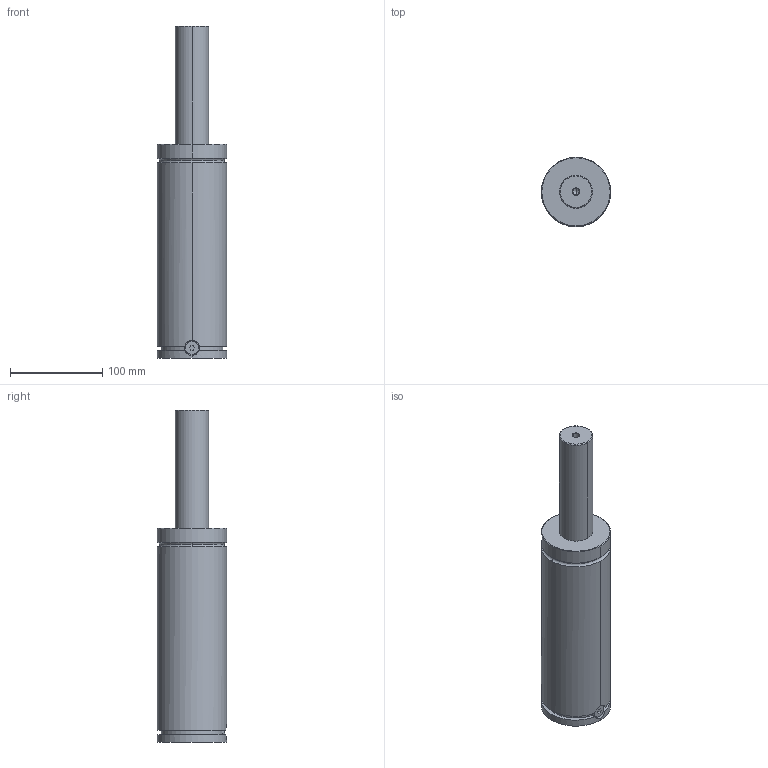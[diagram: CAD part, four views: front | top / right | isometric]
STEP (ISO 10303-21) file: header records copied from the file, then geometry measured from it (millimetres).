
FILE_DESCRIPTION( ( '' ), '1' );
FILE_NAME( 'W:/LIBRERIA TECAPRES®/DIBUJOS STRACK 2012/TPS/TPS 1500/TPS 1500x125.stp', '2012-05-15T13:11:48', ( '' ), ( '' ), ' ', ' ', ' ' );
FILE_SCHEMA( ( 'automotive_design' ) );
Length unit declared in the file: millimetre
Products named in the file (3): 1; 2; 3
Bounding box: 75 x 75 x 360 mm (x, y, z)
Volume: 1017529.4 mm3; surface area: 99081.8 mm2
Topology: 3 solids, 3 shells, 68 faces, 152 edges, 98 vertices
Faces by surface type: cylinder 32, plane 24, torus 6, cone 6
Entity records: 3901 total; most frequent: CARTESIAN_POINT 473, DIRECTION 367, STYLED_ITEM 319, PRESENTATION_STYLE_ASSIGNMENT 319, COLOUR_RGB 319, ORIENTED_EDGE 300, AXIS2_PLACEMENT_3D 154, EDGE_CURVE 150
